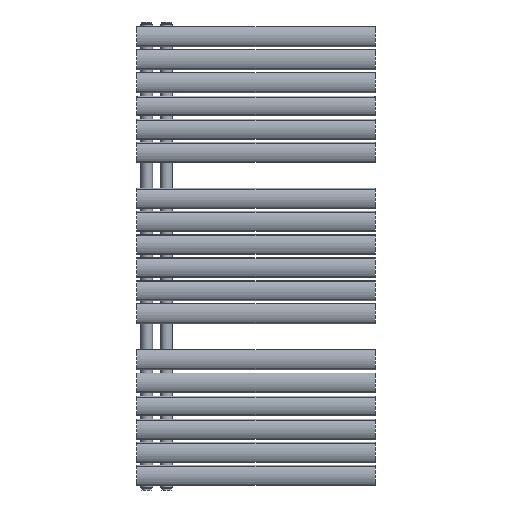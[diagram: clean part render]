
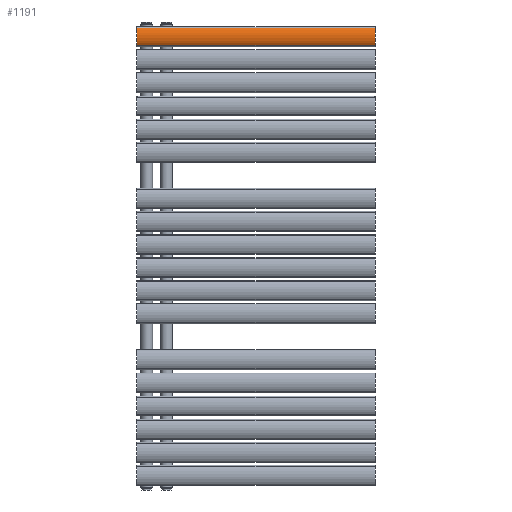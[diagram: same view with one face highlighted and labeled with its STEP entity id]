
A CAD part, front view. The second image highlights one B-rep face of the part: STEP entity #1191.
In plain terms, the highlighted cylindrical face has radius 39.5 mm (diameter 79 mm), a partial arc.
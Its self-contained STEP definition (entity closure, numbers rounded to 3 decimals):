
#145=LINE('',#3267,#177);
#146=LINE('',#3273,#178);
#177=VECTOR('',#1512,10.);
#178=VECTOR('',#1519,10.);
#263=CIRCLE('',#1318,39.5);
#264=CIRCLE('',#1319,39.5);
#393=FACE_OUTER_BOUND('',#516,.T.);
#516=EDGE_LOOP('',(#1018,#1019,#1020,#1021));
#688=VERTEX_POINT('',#3263);
#689=VERTEX_POINT('',#3265);
#690=VERTEX_POINT('',#3269);
#691=VERTEX_POINT('',#3271);
#807=EDGE_CURVE('',#688,#689,#145,.T.);
#808=EDGE_CURVE('',#688,#690,#263,.T.);
#809=EDGE_CURVE('',#691,#689,#264,.T.);
#810=EDGE_CURVE('',#690,#691,#146,.T.);
#1018=ORIENTED_EDGE('',*,*,#808,.F.);
#1019=ORIENTED_EDGE('',*,*,#807,.T.);
#1020=ORIENTED_EDGE('',*,*,#809,.F.);
#1021=ORIENTED_EDGE('',*,*,#810,.F.);
#1152=CYLINDRICAL_SURFACE('',#1317,39.5);
#1191=ADVANCED_FACE('',(#393),#1152,.T.);
#1317=AXIS2_PLACEMENT_3D('',#3268,#1513,#1514);
#1318=AXIS2_PLACEMENT_3D('',#3270,#1515,#1516);
#1319=AXIS2_PLACEMENT_3D('',#3272,#1517,#1518);
#1512=DIRECTION('',(0.,0.,-1.));
#1513=DIRECTION('center_axis',(0.,0.,-1.));
#1514=DIRECTION('ref_axis',(-0.552,-0.834,0.));
#1515=DIRECTION('center_axis',(0.,0.,1.));
#1516=DIRECTION('ref_axis',(-0.552,-0.834,0.));
#1517=DIRECTION('center_axis',(0.,0.,-1.));
#1518=DIRECTION('ref_axis',(-0.552,-0.834,0.));
#1519=DIRECTION('',(0.,0.,-1.));
#3263=CARTESIAN_POINT('',(-21.816,-18.429,0.));
#3265=CARTESIAN_POINT('',(-21.816,-18.429,-600.));
#3267=CARTESIAN_POINT('',(-21.816,-18.429,0.));
#3268=CARTESIAN_POINT('Origin',(0.,14.5,0.));
#3269=CARTESIAN_POINT('',(21.816,-18.429,0.));
#3270=CARTESIAN_POINT('Origin',(0.,14.5,0.));
#3271=CARTESIAN_POINT('',(21.816,-18.429,-600.));
#3272=CARTESIAN_POINT('Origin',(0.,14.5,-600.));
#3273=CARTESIAN_POINT('',(21.816,-18.429,0.));
